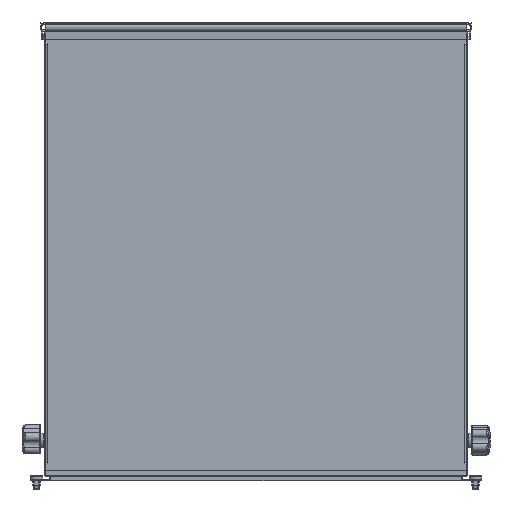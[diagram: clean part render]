
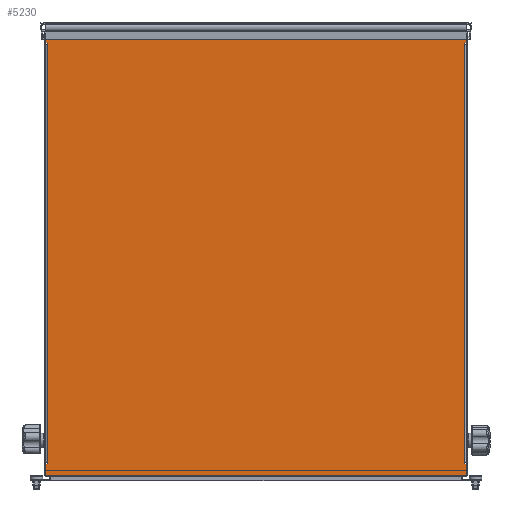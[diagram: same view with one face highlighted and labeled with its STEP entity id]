
A CAD part, left-side view. The second image highlights one B-rep face of the part: STEP entity #5230.
In plain terms, the highlighted planar face has unit normal (-1, 0, 0) as drawn and (0, 1, 0) by its records, which use the part's own axes.
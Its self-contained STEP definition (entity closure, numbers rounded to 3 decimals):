
#5230 = ADVANCED_FACE( '', ( #10931 ), #10932, .F. );
#10931 = FACE_OUTER_BOUND( '', #18606, .T. );
#10932 = PLANE( '', #18607 );
#18606 = EDGE_LOOP( '', ( #31616, #31617, #31618, #31619, #31620, #31621, #31622, #31623, #31624, #31625, #31626, #31627, #31628, #31629, #31630, #31631 ) );
#18607 = AXIS2_PLACEMENT_3D( '', #31632, #31633, #31634 );
#31616 = ORIENTED_EDGE( '', *, *, #41249, .F. );
#31617 = ORIENTED_EDGE( '', *, *, #44185, .T. );
#31618 = ORIENTED_EDGE( '', *, *, #41912, .F. );
#31619 = ORIENTED_EDGE( '', *, *, #44186, .F. );
#31620 = ORIENTED_EDGE( '', *, *, #44187, .F. );
#31621 = ORIENTED_EDGE( '', *, *, #44188, .F. );
#31622 = ORIENTED_EDGE( '', *, *, #43266, .F. );
#31623 = ORIENTED_EDGE( '', *, *, #42998, .T. );
#31624 = ORIENTED_EDGE( '', *, *, #40556, .F. );
#31625 = ORIENTED_EDGE( '', *, *, #42856, .T. );
#31626 = ORIENTED_EDGE( '', *, *, #43171, .F. );
#31627 = ORIENTED_EDGE( '', *, *, #44189, .F. );
#31628 = ORIENTED_EDGE( '', *, *, #44190, .F. );
#31629 = ORIENTED_EDGE( '', *, *, #44191, .F. );
#31630 = ORIENTED_EDGE( '', *, *, #44192, .F. );
#31631 = ORIENTED_EDGE( '', *, *, #44193, .T. );
#31632 = CARTESIAN_POINT( '', ( -265.113, 1.626, -279.4 ) );
#31633 = DIRECTION( '', ( 0., -1., 0. ) );
#31634 = DIRECTION( '', ( 0., 0., -1. ) );
#40556 = EDGE_CURVE( '', #46734, #46730, #46736, .T. );
#41249 = EDGE_CURVE( '', #47950, #47946, #47952, .T. );
#41912 = EDGE_CURVE( '', #49077, #49073, #49079, .T. );
#42856 = EDGE_CURVE( '', #46734, #50616, #50618, .T. );
#42998 = EDGE_CURVE( '', #50844, #46730, #50845, .T. );
#43171 = EDGE_CURVE( '', #51121, #50616, #51123, .T. );
#43266 = EDGE_CURVE( '', #50844, #51270, #51271, .T. );
#44185 = EDGE_CURVE( '', #47950, #49073, #52635, .T. );
#44186 = EDGE_CURVE( '', #52636, #49077, #52637, .T. );
#44187 = EDGE_CURVE( '', #52638, #52636, #52639, .T. );
#44188 = EDGE_CURVE( '', #51270, #52638, #52640, .T. );
#44189 = EDGE_CURVE( '', #52641, #51121, #52642, .T. );
#44190 = EDGE_CURVE( '', #52643, #52641, #52644, .T. );
#44191 = EDGE_CURVE( '', #52645, #52643, #52646, .T. );
#44192 = EDGE_CURVE( '', #49465, #52645, #52647, .T. );
#44193 = EDGE_CURVE( '', #49465, #47946, #52648, .T. );
#46730 = VERTEX_POINT( '', #56046 );
#46734 = VERTEX_POINT( '', #56052 );
#46736 = LINE( '', #56055, #56056 );
#47946 = VERTEX_POINT( '', #60031 );
#47950 = VERTEX_POINT( '', #60037 );
#47952 = LINE( '', #60040, #60041 );
#49073 = VERTEX_POINT( '', #64021 );
#49077 = VERTEX_POINT( '', #64027 );
#49079 = LINE( '', #64030, #64031 );
#49465 = VERTEX_POINT( '', #65158 );
#50616 = VERTEX_POINT( '', #68693 );
#50618 = LINE( '', #68696, #68697 );
#50844 = VERTEX_POINT( '', #69493 );
#50845 = LINE( '', #69494, #69495 );
#51121 = VERTEX_POINT( '', #70569 );
#51123 = LINE( '', #70572, #70573 );
#51270 = VERTEX_POINT( '', #71050 );
#51271 = LINE( '', #71051, #71052 );
#52635 = LINE( '', #75379, #75380 );
#52636 = VERTEX_POINT( '', #75381 );
#52637 = LINE( '', #75382, #75383 );
#52638 = VERTEX_POINT( '', #75384 );
#52639 = LINE( '', #75385, #75386 );
#52640 = LINE( '', #75387, #75388 );
#52641 = VERTEX_POINT( '', #75389 );
#52642 = LINE( '', #75390, #75391 );
#52643 = VERTEX_POINT( '', #75392 );
#52644 = LINE( '', #75393, #75394 );
#52645 = VERTEX_POINT( '', #75395 );
#52646 = LINE( '', #75396, #75397 );
#52647 = LINE( '', #75398, #75399 );
#52648 = LINE( '', #75400, #75401 );
#56046 = CARTESIAN_POINT( '', ( 262.674, 1.626, -263.525 ) );
#56052 = CARTESIAN_POINT( '', ( 262.674, 1.626, -264.287 ) );
#56055 = CARTESIAN_POINT( '', ( 262.674, 1.626, 264.287 ) );
#56056 = VECTOR( '', #84772, 1000. );
#60031 = CARTESIAN_POINT( '', ( -262.674, 1.626, 263.525 ) );
#60037 = CARTESIAN_POINT( '', ( -262.674, 1.626, 264.287 ) );
#60040 = CARTESIAN_POINT( '', ( -262.674, 1.626, -264.287 ) );
#60041 = VECTOR( '', #85545, 1000. );
#64021 = CARTESIAN_POINT( '', ( -265.113, 1.626, 264.287 ) );
#64027 = CARTESIAN_POINT( '', ( -265.113, 1.626, 279.4 ) );
#64030 = CARTESIAN_POINT( '', ( -265.113, 1.626, 279.4 ) );
#64031 = VECTOR( '', #86292, 1000. );
#65158 = CARTESIAN_POINT( '', ( -262.674, 1.626, -263.525 ) );
#68693 = CARTESIAN_POINT( '', ( 265.113, 1.626, -264.287 ) );
#68696 = CARTESIAN_POINT( '', ( 265.113, 1.626, -264.287 ) );
#68697 = VECTOR( '', #87402, 1000. );
#69493 = CARTESIAN_POINT( '', ( 262.674, 1.626, 263.525 ) );
#69494 = CARTESIAN_POINT( '', ( 262.674, 1.626, 263.525 ) );
#69495 = VECTOR( '', #87564, 1000. );
#70569 = CARTESIAN_POINT( '', ( 265.113, 1.626, -279.4 ) );
#70572 = CARTESIAN_POINT( '', ( 265.113, 1.626, -279.4 ) );
#70573 = VECTOR( '', #87747, 1000. );
#71050 = CARTESIAN_POINT( '', ( 262.674, 1.626, 264.287 ) );
#71051 = CARTESIAN_POINT( '', ( 262.674, 1.626, 264.287 ) );
#71052 = VECTOR( '', #87838, 1000. );
#75379 = CARTESIAN_POINT( '', ( -265.113, 1.626, 264.287 ) );
#75380 = VECTOR( '', #88852, 1000. );
#75381 = CARTESIAN_POINT( '', ( 265.113, 1.626, 279.4 ) );
#75382 = CARTESIAN_POINT( '', ( 265.113, 1.626, 279.4 ) );
#75383 = VECTOR( '', #88853, 1000. );
#75384 = CARTESIAN_POINT( '', ( 265.113, 1.626, 264.287 ) );
#75385 = CARTESIAN_POINT( '', ( 265.113, 1.626, -279.4 ) );
#75386 = VECTOR( '', #88854, 1000. );
#75387 = CARTESIAN_POINT( '', ( 265.113, 1.626, 264.287 ) );
#75388 = VECTOR( '', #88855, 1000. );
#75389 = CARTESIAN_POINT( '', ( -265.113, 1.626, -279.4 ) );
#75390 = CARTESIAN_POINT( '', ( -265.113, 1.626, -279.4 ) );
#75391 = VECTOR( '', #88856, 1000. );
#75392 = CARTESIAN_POINT( '', ( -265.113, 1.626, -264.287 ) );
#75393 = CARTESIAN_POINT( '', ( -265.113, 1.626, 279.4 ) );
#75394 = VECTOR( '', #88857, 1000. );
#75395 = CARTESIAN_POINT( '', ( -262.674, 1.626, -264.287 ) );
#75396 = CARTESIAN_POINT( '', ( -265.113, 1.626, -264.287 ) );
#75397 = VECTOR( '', #88858, 1000. );
#75398 = CARTESIAN_POINT( '', ( -262.674, 1.626, -264.287 ) );
#75399 = VECTOR( '', #88859, 1000. );
#75400 = CARTESIAN_POINT( '', ( -262.674, 1.626, -263.525 ) );
#75401 = VECTOR( '', #88860, 1000. );
#84772 = DIRECTION( '', ( 0., 0., 1. ) );
#85545 = DIRECTION( '', ( 0., 0., -1. ) );
#86292 = DIRECTION( '', ( 0., 0., -1. ) );
#87402 = DIRECTION( '', ( 1., 0., 0. ) );
#87564 = DIRECTION( '', ( 0., 0., -1. ) );
#87747 = DIRECTION( '', ( 0., 0., 1. ) );
#87838 = DIRECTION( '', ( 0., 0., 1. ) );
#88852 = DIRECTION( '', ( -1., 0., 0. ) );
#88853 = DIRECTION( '', ( -1., 0., 0. ) );
#88854 = DIRECTION( '', ( 0., 0., 1. ) );
#88855 = DIRECTION( '', ( 1., 0., 0. ) );
#88856 = DIRECTION( '', ( 1., 0., 0. ) );
#88857 = DIRECTION( '', ( 0., 0., -1. ) );
#88858 = DIRECTION( '', ( -1., 0., 0. ) );
#88859 = DIRECTION( '', ( 0., 0., -1. ) );
#88860 = DIRECTION( '', ( 0., 0., 1. ) );
